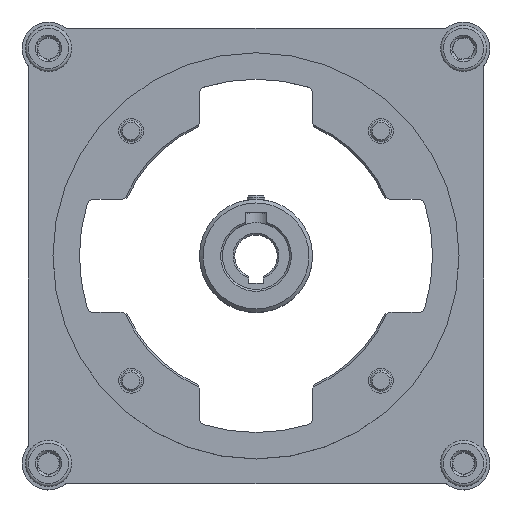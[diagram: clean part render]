
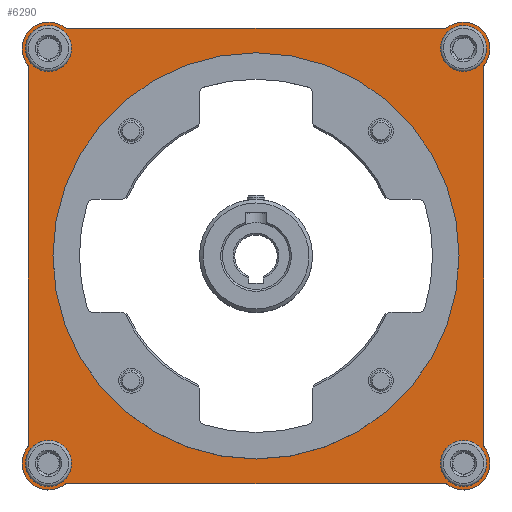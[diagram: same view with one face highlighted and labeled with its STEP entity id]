
A CAD part, top view. The second image highlights one B-rep face of the part: STEP entity #6290.
In plain terms, the highlighted planar face has unit normal (0, 0, 1).
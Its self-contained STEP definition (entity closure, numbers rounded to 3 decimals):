
#222=FACE_BOUND('',#1891,.T.);
#223=FACE_BOUND('',#1892,.T.);
#224=FACE_BOUND('',#1893,.T.);
#225=FACE_BOUND('',#1894,.T.);
#226=FACE_BOUND('',#1895,.T.);
#289=PLANE('',#7192);
#583=LINE('',#11700,#937);
#588=LINE('',#11716,#942);
#593=LINE('',#11732,#947);
#598=LINE('',#11748,#952);
#937=VECTOR('',#8911,10.);
#942=VECTOR('',#8930,10.);
#947=VECTOR('',#8949,10.);
#952=VECTOR('',#8968,10.);
#1495=FACE_OUTER_BOUND('',#1890,.T.);
#1890=EDGE_LOOP('',(#5508,#5509,#5510,#5511,#5512,#5513,#5514,#5515,#5516,
#5517,#5518,#5519,#5520,#5521,#5522,#5523));
#1891=EDGE_LOOP('',(#5524));
#1892=EDGE_LOOP('',(#5525));
#1893=EDGE_LOOP('',(#5526));
#1894=EDGE_LOOP('',(#5527));
#1895=EDGE_LOOP('',(#5528));
#2403=CIRCLE('',#7137,57.5);
#2404=CIRCLE('',#7157,4.5);
#2405=CIRCLE('',#7159,4.5);
#2406=CIRCLE('',#7161,4.5);
#2407=CIRCLE('',#7163,4.5);
#2408=CIRCLE('',#7165,7.5);
#2409=CIRCLE('',#7167,1.);
#2410=CIRCLE('',#7170,1.);
#2411=CIRCLE('',#7172,7.5);
#2412=CIRCLE('',#7174,1.);
#2413=CIRCLE('',#7177,1.);
#2414=CIRCLE('',#7179,7.5);
#2415=CIRCLE('',#7181,1.);
#2416=CIRCLE('',#7184,1.);
#2417=CIRCLE('',#7186,7.5);
#2418=CIRCLE('',#7188,1.);
#2419=CIRCLE('',#7191,1.);
#2963=VERTEX_POINT('',#11636);
#2964=VERTEX_POINT('',#11673);
#2965=VERTEX_POINT('',#11677);
#2966=VERTEX_POINT('',#11681);
#2967=VERTEX_POINT('',#11685);
#2968=VERTEX_POINT('',#11689);
#2969=VERTEX_POINT('',#11691);
#2970=VERTEX_POINT('',#11695);
#2971=VERTEX_POINT('',#11699);
#2972=VERTEX_POINT('',#11703);
#2973=VERTEX_POINT('',#11707);
#2974=VERTEX_POINT('',#11711);
#2975=VERTEX_POINT('',#11715);
#2976=VERTEX_POINT('',#11719);
#2977=VERTEX_POINT('',#11723);
#2978=VERTEX_POINT('',#11727);
#2979=VERTEX_POINT('',#11731);
#2980=VERTEX_POINT('',#11735);
#2981=VERTEX_POINT('',#11739);
#2982=VERTEX_POINT('',#11743);
#2983=VERTEX_POINT('',#11747);
#3798=EDGE_CURVE('',#2963,#2963,#2403,.T.);
#3814=EDGE_CURVE('',#2964,#2964,#2404,.T.);
#3816=EDGE_CURVE('',#2965,#2965,#2405,.T.);
#3818=EDGE_CURVE('',#2966,#2966,#2406,.T.);
#3820=EDGE_CURVE('',#2967,#2967,#2407,.T.);
#3823=EDGE_CURVE('',#2969,#2968,#2408,.T.);
#3825=EDGE_CURVE('',#2970,#2969,#2409,.T.);
#3827=EDGE_CURVE('',#2971,#2970,#583,.T.);
#3829=EDGE_CURVE('',#2972,#2971,#2410,.T.);
#3831=EDGE_CURVE('',#2973,#2972,#2411,.T.);
#3833=EDGE_CURVE('',#2974,#2973,#2412,.T.);
#3835=EDGE_CURVE('',#2975,#2974,#588,.T.);
#3837=EDGE_CURVE('',#2976,#2975,#2413,.T.);
#3839=EDGE_CURVE('',#2977,#2976,#2414,.T.);
#3841=EDGE_CURVE('',#2978,#2977,#2415,.T.);
#3843=EDGE_CURVE('',#2979,#2978,#593,.T.);
#3845=EDGE_CURVE('',#2980,#2979,#2416,.T.);
#3847=EDGE_CURVE('',#2981,#2980,#2417,.T.);
#3849=EDGE_CURVE('',#2982,#2981,#2418,.T.);
#3851=EDGE_CURVE('',#2983,#2982,#598,.T.);
#3853=EDGE_CURVE('',#2968,#2983,#2419,.T.);
#5508=ORIENTED_EDGE('',*,*,#3853,.T.);
#5509=ORIENTED_EDGE('',*,*,#3851,.T.);
#5510=ORIENTED_EDGE('',*,*,#3849,.T.);
#5511=ORIENTED_EDGE('',*,*,#3847,.T.);
#5512=ORIENTED_EDGE('',*,*,#3845,.T.);
#5513=ORIENTED_EDGE('',*,*,#3843,.T.);
#5514=ORIENTED_EDGE('',*,*,#3841,.T.);
#5515=ORIENTED_EDGE('',*,*,#3839,.T.);
#5516=ORIENTED_EDGE('',*,*,#3837,.T.);
#5517=ORIENTED_EDGE('',*,*,#3835,.T.);
#5518=ORIENTED_EDGE('',*,*,#3833,.T.);
#5519=ORIENTED_EDGE('',*,*,#3831,.T.);
#5520=ORIENTED_EDGE('',*,*,#3829,.T.);
#5521=ORIENTED_EDGE('',*,*,#3827,.T.);
#5522=ORIENTED_EDGE('',*,*,#3825,.T.);
#5523=ORIENTED_EDGE('',*,*,#3823,.T.);
#5524=ORIENTED_EDGE('',*,*,#3798,.T.);
#5525=ORIENTED_EDGE('',*,*,#3820,.T.);
#5526=ORIENTED_EDGE('',*,*,#3818,.T.);
#5527=ORIENTED_EDGE('',*,*,#3816,.T.);
#5528=ORIENTED_EDGE('',*,*,#3814,.T.);
#6290=ADVANCED_FACE('',(#1495,#222,#223,#224,#225,#226),#289,.T.);
#7137=AXIS2_PLACEMENT_3D('',#11638,#8825,#8826);
#7157=AXIS2_PLACEMENT_3D('',#11674,#8880,#8881);
#7159=AXIS2_PLACEMENT_3D('',#11678,#8885,#8886);
#7161=AXIS2_PLACEMENT_3D('',#11682,#8890,#8891);
#7163=AXIS2_PLACEMENT_3D('',#11686,#8895,#8896);
#7165=AXIS2_PLACEMENT_3D('',#11692,#8901,#8902);
#7167=AXIS2_PLACEMENT_3D('',#11696,#8906,#8907);
#7170=AXIS2_PLACEMENT_3D('',#11704,#8915,#8916);
#7172=AXIS2_PLACEMENT_3D('',#11708,#8920,#8921);
#7174=AXIS2_PLACEMENT_3D('',#11712,#8925,#8926);
#7177=AXIS2_PLACEMENT_3D('',#11720,#8934,#8935);
#7179=AXIS2_PLACEMENT_3D('',#11724,#8939,#8940);
#7181=AXIS2_PLACEMENT_3D('',#11728,#8944,#8945);
#7184=AXIS2_PLACEMENT_3D('',#11736,#8953,#8954);
#7186=AXIS2_PLACEMENT_3D('',#11740,#8958,#8959);
#7188=AXIS2_PLACEMENT_3D('',#11744,#8963,#8964);
#7191=AXIS2_PLACEMENT_3D('',#11751,#8972,#8973);
#7192=AXIS2_PLACEMENT_3D('',#11752,#8974,#8975);
#8825=DIRECTION('center_axis',(0.,0.,-1.));
#8826=DIRECTION('ref_axis',(-1.,0.,0.));
#8880=DIRECTION('center_axis',(0.,0.,-1.));
#8881=DIRECTION('ref_axis',(-1.,0.,0.));
#8885=DIRECTION('center_axis',(0.,0.,-1.));
#8886=DIRECTION('ref_axis',(-1.,0.,0.));
#8890=DIRECTION('center_axis',(0.,0.,-1.));
#8891=DIRECTION('ref_axis',(-1.,0.,0.));
#8895=DIRECTION('center_axis',(0.,0.,-1.));
#8896=DIRECTION('ref_axis',(-1.,0.,0.));
#8901=DIRECTION('center_axis',(0.,0.,1.));
#8902=DIRECTION('ref_axis',(-0.608,-0.794,0.));
#8906=DIRECTION('center_axis',(0.,0.,-1.));
#8907=DIRECTION('ref_axis',(-0.608,-0.794,0.));
#8911=DIRECTION('',(1.,0.,0.));
#8915=DIRECTION('center_axis',(0.,0.,-1.));
#8916=DIRECTION('ref_axis',(0.,-1.,0.));
#8920=DIRECTION('center_axis',(0.,0.,1.));
#8921=DIRECTION('ref_axis',(-0.794,0.608,0.));
#8925=DIRECTION('center_axis',(0.,0.,-1.));
#8926=DIRECTION('ref_axis',(-0.794,0.608,0.));
#8930=DIRECTION('',(0.,-1.,0.));
#8934=DIRECTION('center_axis',(0.,0.,-1.));
#8935=DIRECTION('ref_axis',(-1.,0.,0.));
#8939=DIRECTION('center_axis',(0.,0.,1.));
#8940=DIRECTION('ref_axis',(0.608,0.794,0.));
#8944=DIRECTION('center_axis',(0.,0.,-1.));
#8945=DIRECTION('ref_axis',(0.608,0.794,0.));
#8949=DIRECTION('',(-1.,0.,0.));
#8953=DIRECTION('center_axis',(0.,0.,-1.));
#8954=DIRECTION('ref_axis',(0.,1.,0.));
#8958=DIRECTION('center_axis',(0.,0.,1.));
#8959=DIRECTION('ref_axis',(0.794,-0.608,0.));
#8963=DIRECTION('center_axis',(0.,0.,-1.));
#8964=DIRECTION('ref_axis',(0.794,-0.608,0.));
#8968=DIRECTION('',(0.,1.,0.));
#8972=DIRECTION('center_axis',(0.,0.,-1.));
#8973=DIRECTION('ref_axis',(1.,0.,0.));
#8974=DIRECTION('center_axis',(0.,0.,1.));
#8975=DIRECTION('ref_axis',(1.,0.,0.));
#11636=CARTESIAN_POINT('',(-57.5,0.,9.5));
#11638=CARTESIAN_POINT('Origin',(0.,0.,9.5));
#11673=CARTESIAN_POINT('',(-54.25,-58.75,9.5));
#11674=CARTESIAN_POINT('Origin',(-58.75,-58.75,9.5));
#11677=CARTESIAN_POINT('',(63.25,-58.75,9.5));
#11678=CARTESIAN_POINT('Origin',(58.75,-58.75,9.5));
#11681=CARTESIAN_POINT('',(-54.25,58.75,9.5));
#11682=CARTESIAN_POINT('Origin',(-58.75,58.75,9.5));
#11685=CARTESIAN_POINT('',(63.25,58.75,9.5));
#11686=CARTESIAN_POINT('Origin',(58.75,58.75,9.5));
#11689=CARTESIAN_POINT('',(64.706,-54.192,9.5));
#11691=CARTESIAN_POINT('',(54.192,-64.706,9.5));
#11692=CARTESIAN_POINT('Origin',(58.75,-58.75,9.5));
#11695=CARTESIAN_POINT('',(53.584,-64.5,9.5));
#11696=CARTESIAN_POINT('Origin',(53.584,-65.5,9.5));
#11699=CARTESIAN_POINT('',(-53.584,-64.5,9.5));
#11700=CARTESIAN_POINT('',(-53.584,-64.5,9.5));
#11703=CARTESIAN_POINT('',(-54.192,-64.706,9.5));
#11704=CARTESIAN_POINT('Origin',(-53.584,-65.5,9.5));
#11707=CARTESIAN_POINT('',(-64.706,-54.192,9.5));
#11708=CARTESIAN_POINT('Origin',(-58.75,-58.75,9.5));
#11711=CARTESIAN_POINT('',(-64.5,-53.584,9.5));
#11712=CARTESIAN_POINT('Origin',(-65.5,-53.584,9.5));
#11715=CARTESIAN_POINT('',(-64.5,53.584,9.5));
#11716=CARTESIAN_POINT('',(-64.5,53.584,9.5));
#11719=CARTESIAN_POINT('',(-64.706,54.192,9.5));
#11720=CARTESIAN_POINT('Origin',(-65.5,53.584,9.5));
#11723=CARTESIAN_POINT('',(-54.192,64.706,9.5));
#11724=CARTESIAN_POINT('Origin',(-58.75,58.75,9.5));
#11727=CARTESIAN_POINT('',(-53.584,64.5,9.5));
#11728=CARTESIAN_POINT('Origin',(-53.584,65.5,9.5));
#11731=CARTESIAN_POINT('',(53.584,64.5,9.5));
#11732=CARTESIAN_POINT('',(53.584,64.5,9.5));
#11735=CARTESIAN_POINT('',(54.192,64.706,9.5));
#11736=CARTESIAN_POINT('Origin',(53.584,65.5,9.5));
#11739=CARTESIAN_POINT('',(64.706,54.192,9.5));
#11740=CARTESIAN_POINT('Origin',(58.75,58.75,9.5));
#11743=CARTESIAN_POINT('',(64.5,53.584,9.5));
#11744=CARTESIAN_POINT('Origin',(65.5,53.584,9.5));
#11747=CARTESIAN_POINT('',(64.5,-53.584,9.5));
#11748=CARTESIAN_POINT('',(64.5,-53.584,9.5));
#11751=CARTESIAN_POINT('Origin',(65.5,-53.584,9.5));
#11752=CARTESIAN_POINT('Origin',(0.,0.,9.5));
